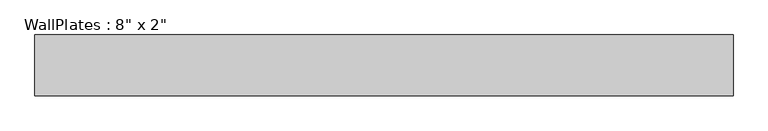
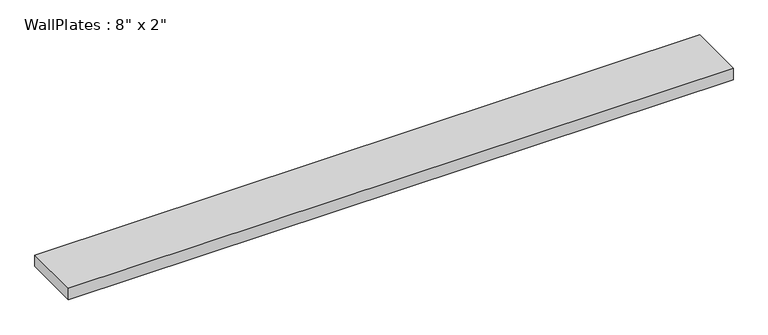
"""IFC4 building model written with IfcOpenShell, lengths in millimetres: beam geometry."""

from ifc_helpers import new_model, si_unit, frame, origin, place, context, project, spatial, polyline, outline, extrude, source, transform, mapped, element, save


def beam_c92ab070(model_context):
    return source(origin(), model_context, "Body", "SweptSolid", [
        extrude(outline(polyline([(-1054.095, -92.075), (-1054.095, 92.075), (1054.095, 92.075), (1054.095, -92.075), (-1054.095, -92.075)])), frame((0.0, 0.0, -19.05), z_axis=(0.0, 0.0, 1.0), x_axis=(1.0, 0.0, 0.0)), (0.0, 0.0, 1.0), 38.1),
    ])


if __name__ == "__main__":
    model = new_model("IFC4")
    model_context = context("Model", 3, world=origin())
    ifc_project = project(units=[si_unit("LENGTHUNIT", "METRE", prefix="MILLI")], contexts=[model_context])
    site = spatial("IfcSite", under=ifc_project)
    building = spatial("IfcBuilding", under=site)
    placement = place(None, origin())
    beam_shape = beam_c92ab070(model_context)
    element("IfcBeam", 1, ObjectType="WallPlates : 8\" x 2\"", at=placement, inside=building, context=model_context, shape_type="MappedRepresentation", body=[
        mapped(beam_shape, transform((0.0, 0.0, 0.0), x_axis=(1.0, 0.0, 0.0), y_axis=(0.0, 1.0, 0.0), z_axis=(0.0, 0.0, 1.0))),
    ])
    save(model, "model.ifc")
